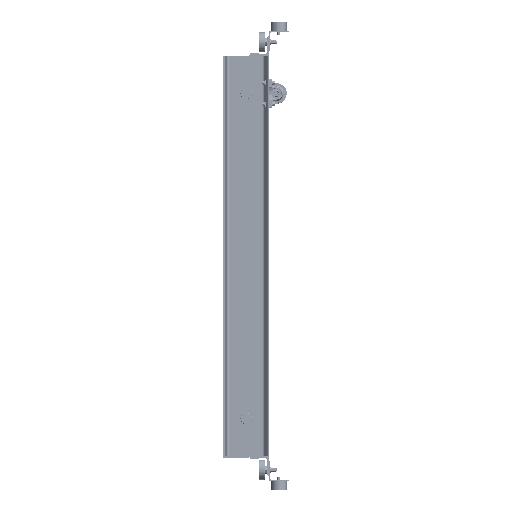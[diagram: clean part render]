
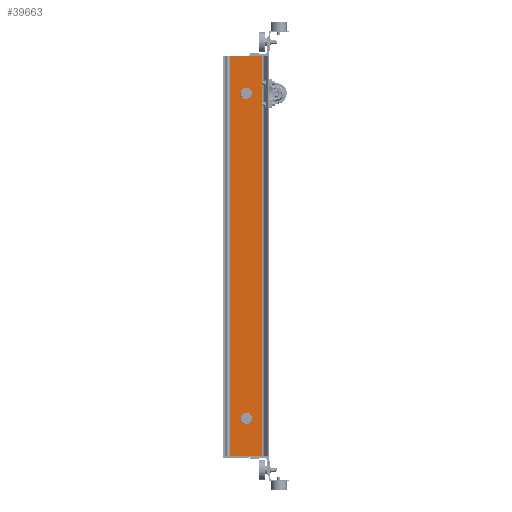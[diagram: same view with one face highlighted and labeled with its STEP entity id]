
A CAD part, left-side view. The second image highlights one B-rep face of the part: STEP entity #39663.
In plain terms, the highlighted planar face has unit normal (-1, 0, 0) as drawn and (1, 0, 0) by its records, which use the part's own axes.
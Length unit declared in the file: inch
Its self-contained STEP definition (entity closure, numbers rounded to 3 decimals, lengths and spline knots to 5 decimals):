
#4571 = ORIENTED_EDGE ( 'NONE', *, *, #125134, .F. ) ;
#4965 = AXIS2_PLACEMENT_3D ( 'NONE', #85248, #139340, #46540 ) ;
#6901 = CARTESIAN_POINT ( 'NONE',  ( 0.353, 1.14232, 35. ) ) ;
#8226 = CARTESIAN_POINT ( 'NONE',  ( 0.353, 3.0835, 28.5 ) ) ;
#9113 = PLANE ( 'NONE',  #105431 ) ;
#13999 = CARTESIAN_POINT ( 'NONE',  ( 0.353, 3.971, 28.5 ) ) ;
#15331 = VERTEX_POINT ( 'NONE', #8226 ) ;
#18129 = CARTESIAN_POINT ( 'NONE',  ( 0.353, 3.0835, -28.5 ) ) ;
#19337 = CIRCLE ( 'NONE', #97032, 0.8875 ) ;
#22201 = DIRECTION ( 'NONE',  ( 1., 0., 0. ) ) ;
#24479 = CARTESIAN_POINT ( 'NONE',  ( 0.353, 1.14232, -35. ) ) ;
#26506 = AXIS2_PLACEMENT_3D ( 'NONE', #13999, #123887, #55452 ) ;
#28857 = ORIENTED_EDGE ( 'NONE', *, *, #176850, .F. ) ;
#28882 = VERTEX_POINT ( 'NONE', #38318 ) ;
#35431 = DIRECTION ( 'NONE',  ( 0., 1., 0. ) ) ;
#36295 = VERTEX_POINT ( 'NONE', #24479 ) ;
#36626 = CIRCLE ( 'NONE', #4965, 0.8875 ) ;
#37952 = FACE_BOUND ( 'NONE', #131347, .T. ) ;
#38318 = CARTESIAN_POINT ( 'NONE',  ( 0.353, 4.8585, 28.5 ) ) ;
#39663 = ADVANCED_FACE ( 'NONE', ( #132543, #37952, #51467 ), #9113, .T. ) ;
#42580 = VECTOR ( 'NONE', #152252, 39.37008 ) ;
#43315 = DIRECTION ( 'NONE',  ( 0., 0., -1. ) ) ;
#44660 = EDGE_CURVE ( 'NONE', #81199, #36295, #164902, .T. ) ;
#46540 = DIRECTION ( 'NONE',  ( 0., 1., 0. ) ) ;
#47026 = ORIENTED_EDGE ( 'NONE', *, *, #77595, .T. ) ;
#49996 = EDGE_CURVE ( 'NONE', #108387, #36295, #129954, .T. ) ;
#50584 = DIRECTION ( 'NONE',  ( 1., 0., 0. ) ) ;
#51467 = FACE_OUTER_BOUND ( 'NONE', #55069, .T. ) ;
#55069 = EDGE_LOOP ( 'NONE', ( #62511, #156219, #47026, #136370 ) ) ;
#55452 = DIRECTION ( 'NONE',  ( 0., 1., 0. ) ) ;
#56848 = CARTESIAN_POINT ( 'NONE',  ( 0.353, 1.14232, 35. ) ) ;
#62511 = ORIENTED_EDGE ( 'NONE', *, *, #49996, .F. ) ;
#64760 = EDGE_CURVE ( 'NONE', #175191, #169226, #154592, .T. ) ;
#70594 = ORIENTED_EDGE ( 'NONE', *, *, #114836, .F. ) ;
#73232 = CARTESIAN_POINT ( 'NONE',  ( 0.353, 6.85768, -35. ) ) ;
#76845 = CARTESIAN_POINT ( 'NONE',  ( 0.353, 3.971, -28.5 ) ) ;
#77595 = EDGE_CURVE ( 'NONE', #124218, #81199, #113506, .T. ) ;
#81199 = VERTEX_POINT ( 'NONE', #6901 ) ;
#85248 = CARTESIAN_POINT ( 'NONE',  ( 0.353, 3.971, -28.5 ) ) ;
#85558 = AXIS2_PLACEMENT_3D ( 'NONE', #76845, #130890, #35431 ) ;
#86172 = VECTOR ( 'NONE', #140829, 39.37008 ) ;
#92876 = CARTESIAN_POINT ( 'NONE',  ( 0.353, 6.85768, 35. ) ) ;
#94901 = CARTESIAN_POINT ( 'NONE',  ( 0.353, 6.85768, 35. ) ) ;
#96660 = DIRECTION ( 'NONE',  ( 0., 0., -1. ) ) ;
#97032 = AXIS2_PLACEMENT_3D ( 'NONE', #117716, #22201, #100641 ) ;
#97314 = CARTESIAN_POINT ( 'NONE',  ( 0.353, 6.85768, 35. ) ) ;
#100641 = DIRECTION ( 'NONE',  ( 0., 1., 0. ) ) ;
#102635 = ORIENTED_EDGE ( 'NONE', *, *, #64760, .F. ) ;
#104221 = CIRCLE ( 'NONE', #26506, 0.8875 ) ;
#105431 = AXIS2_PLACEMENT_3D ( 'NONE', #92876, #50584, #160437 ) ;
#108387 = VERTEX_POINT ( 'NONE', #130578 ) ;
#113506 = LINE ( 'NONE', #97314, #42580 ) ;
#114836 = EDGE_CURVE ( 'NONE', #169226, #175191, #36626, .T. ) ;
#117625 = EDGE_LOOP ( 'NONE', ( #70594, #102635 ) ) ;
#117716 = CARTESIAN_POINT ( 'NONE',  ( 0.353, 3.971, 28.5 ) ) ;
#123887 = DIRECTION ( 'NONE',  ( 1., 0., 0. ) ) ;
#124218 = VERTEX_POINT ( 'NONE', #136459 ) ;
#125134 = EDGE_CURVE ( 'NONE', #28882, #15331, #104221, .T. ) ;
#129954 = LINE ( 'NONE', #73232, #86172 ) ;
#130578 = CARTESIAN_POINT ( 'NONE',  ( 0.353, 6.85768, -35. ) ) ;
#130890 = DIRECTION ( 'NONE',  ( 1., 0., 0. ) ) ;
#131347 = EDGE_LOOP ( 'NONE', ( #4571, #28857 ) ) ;
#132543 = FACE_BOUND ( 'NONE', #117625, .T. ) ;
#136370 = ORIENTED_EDGE ( 'NONE', *, *, #44660, .T. ) ;
#136459 = CARTESIAN_POINT ( 'NONE',  ( 0.353, 6.85768, 35. ) ) ;
#139340 = DIRECTION ( 'NONE',  ( 1., 0., 0. ) ) ;
#140829 = DIRECTION ( 'NONE',  ( 0., -1., 0. ) ) ;
#146034 = VECTOR ( 'NONE', #43315, 39.37008 ) ;
#152252 = DIRECTION ( 'NONE',  ( 0., -1., 0. ) ) ;
#154592 = CIRCLE ( 'NONE', #85558, 0.8875 ) ;
#156219 = ORIENTED_EDGE ( 'NONE', *, *, #169438, .F. ) ;
#158578 = VECTOR ( 'NONE', #96660, 39.37008 ) ;
#160437 = DIRECTION ( 'NONE',  ( 0., 1., 0. ) ) ;
#164902 = LINE ( 'NONE', #56848, #146034 ) ;
#169226 = VERTEX_POINT ( 'NONE', #173230 ) ;
#169438 = EDGE_CURVE ( 'NONE', #124218, #108387, #177657, .T. ) ;
#173230 = CARTESIAN_POINT ( 'NONE',  ( 0.353, 4.8585, -28.5 ) ) ;
#175191 = VERTEX_POINT ( 'NONE', #18129 ) ;
#176850 = EDGE_CURVE ( 'NONE', #15331, #28882, #19337, .T. ) ;
#177657 = LINE ( 'NONE', #94901, #158578 ) ;
